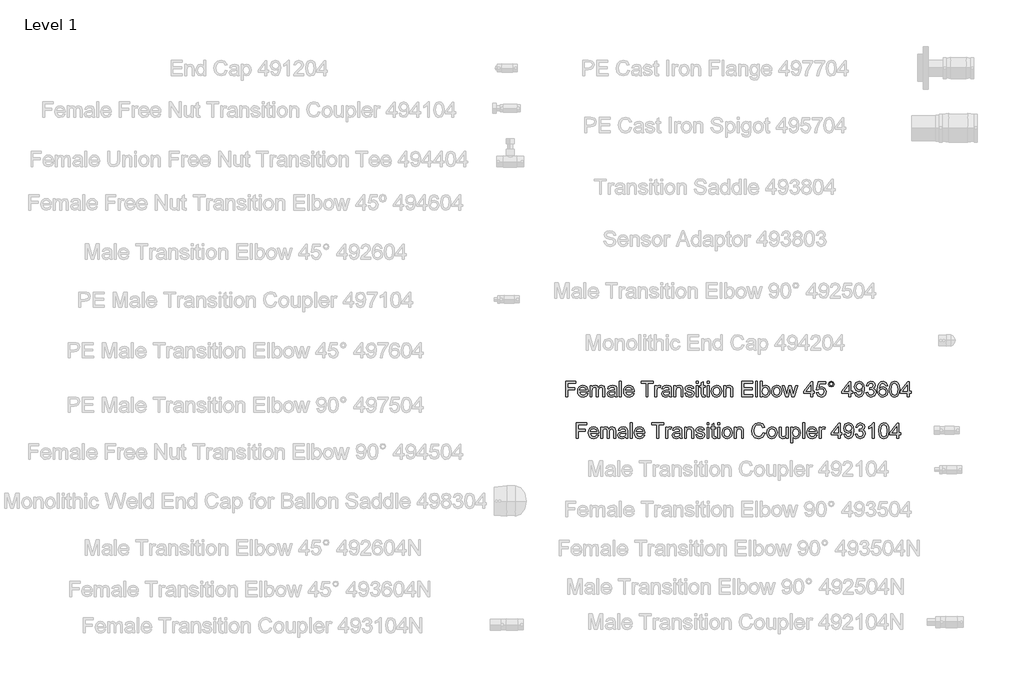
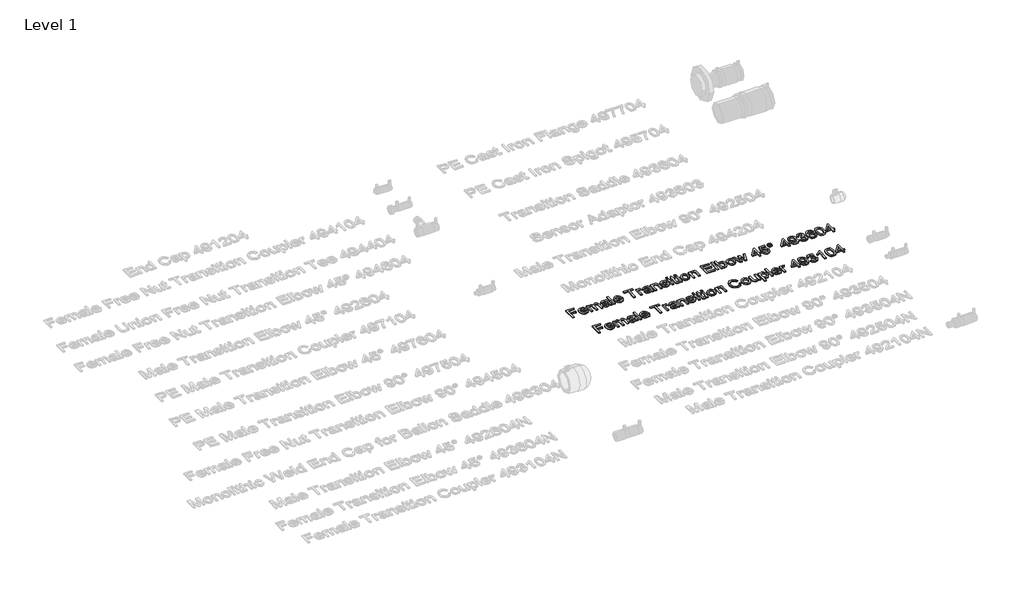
# One storey, part 24 of 38: 2 proxies.
"""IFC4 building model written with IfcOpenShell, lengths in millimetres."""

from ifc_helpers import new_model, si_unit, origin, origin_with_axes, place, context, project, spatial, polyline, outline, extrude, element, save

model = new_model("IFC4")

# Units and contexts
model_context = context("Model", 3, world=origin())
ifc_project = project(units=[si_unit("LENGTHUNIT", "METRE", prefix="MILLI")], contexts=[model_context])

# Site, building, storey
site = spatial("IfcSite", under=ifc_project)
building = spatial("IfcBuilding", under=site)
storey = spatial("IfcBuildingStorey", under=building, Name="Level 1", Elevation=0.0)

# Proxies
placement = place(None, origin())
element("IfcBuildingElementProxy", 1, Name="100 mm Arial", ObjectType="100 mm Arial", at=placement, inside=storey, context=model_context, shape_type="SweptSolid", body=[
    extrude(outline(polyline([(17547.9136045, 3844.7258229), (17547.9136045, 3903.802746), (17587.6059122, 3903.802746), (17587.6059122, 3896.4181306), (17555.2982199, 3896.4181306), (17555.2982199, 3878.879669), (17582.9905276, 3878.879669), (17582.9905276, 3871.4950536), (17555.2982199, 3871.4950536), (17555.2982199, 3844.7258229), (17547.9136045, 3844.7258229)])), origin_with_axes(), (0.0, 0.0, 1.0), 5.0),
    extrude(outline(polyline([(17627.2116814, 3857.6488998), (17634.4520661, 3856.7258229), (17627.6804314, 3847.192169), (17615.0674507, 3843.802746), (17606.4027872, 3845.2648854), (17599.7357199, 3849.6513036), (17595.484518, 3856.677145), (17594.0674507, 3866.0575536), (17595.4989411, 3875.7534671), (17599.7934122, 3883.004669), (17606.3703353, 3887.5263036), (17614.6491814, 3889.0335152), (17622.6702151, 3887.5299094), (17629.0794699, 3883.0190921), (17633.2819939, 3875.7823133), (17634.6828353, 3866.1008229), (17634.6395661, 3864.1104383), (17601.4520661, 3864.1104383), (17605.6996622, 3854.5190921), (17615.2116814, 3851.1873613), (17622.4520661, 3852.7306306), (17627.2116814, 3857.6488998)]), holes=[polyline([(17601.4520661, 3871.4950536), (17627.2982199, 3871.4950536), (17624.3414891, 3878.1873613), (17614.6203353, 3881.6488998), (17605.5265853, 3878.8868806), (17601.4520661, 3871.4950536)])]), origin_with_axes(), (0.0, 0.0, 1.0), 5.0),
    extrude(outline(polyline([(17642.0674507, 3844.7258229), (17642.0674507, 3888.1104383), (17649.4520661, 3888.1104383), (17649.4520661, 3880.9710152), (17654.5289891, 3886.8195729), (17661.7549507, 3889.0335152), (17669.1539891, 3886.7763036), (17673.2212968, 3880.4517844), (17678.9833161, 3886.8880825), (17686.2597584, 3889.0335152), (17695.9160084, 3885.4638036), (17699.2982199, 3874.4662075), (17699.2982199, 3844.7258229), (17691.9136045, 3844.7258229), (17691.9136045, 3871.2931306), (17691.2285084, 3877.458996), (17688.7477391, 3880.4950536), (17684.5289891, 3881.6488998), (17677.2669699, 3878.692169), (17674.375143, 3869.2162075), (17674.375143, 3844.7258229), (17666.9905276, 3844.7258229), (17666.9905276, 3872.115246), (17665.281393, 3879.2690921), (17659.6780276, 3881.6488998), (17654.2116814, 3880.0623613), (17650.5770661, 3875.4181306), (17649.4520661, 3866.6056306), (17649.4520661, 3844.7258229), (17642.0674507, 3844.7258229)])), origin_with_axes(), (0.0, 0.0, 1.0), 5.0),
    extrude(outline(polyline([(17738.0674507, 3850.2642844), (17730.906393, 3845.2594767), (17722.9953353, 3843.802746), (17712.2717776, 3847.3075536), (17708.5289891, 3856.2642844), (17709.9424507, 3862.1056306), (17713.656393, 3866.3460152), (17718.8270661, 3868.7690921), (17725.2164891, 3869.879669), (17738.0241814, 3872.4181306), (17738.0674507, 3874.0623613), (17736.0337968, 3879.5142844), (17727.8703353, 3881.6488998), (17720.3991814, 3880.2282267), (17716.8366814, 3875.1873613), (17709.4520661, 3876.1104383), (17712.6467776, 3883.3219767), (17719.0794699, 3887.5479383), (17728.8222584, 3889.0335152), (17737.7717776, 3887.7210152), (17742.8270661, 3884.4253421), (17745.0914891, 3879.4133229), (17745.4520661, 3872.9517844), (17745.4520661, 3863.7642844), (17745.8270661, 3850.9349575), (17747.2982199, 3844.7258229), (17739.9136045, 3844.7258229), (17738.0674507, 3850.2642844)]), holes=[polyline([(17738.0674507, 3865.0335152), (17726.1539891, 3862.7690921), (17719.8006237, 3861.5719767), (17716.9232199, 3859.6248613), (17715.9136045, 3856.7835152), (17718.1131237, 3852.7883229), (17724.5674507, 3851.1873613), (17732.0386045, 3852.9541883), (17736.8559122, 3857.2306306), (17738.0241814, 3862.942169), (17738.0674507, 3865.0335152)])]), origin_with_axes(), (0.0, 0.0, 1.0), 5.0),
    extrude(outline(polyline([(17755.6059122, 3844.7258229), (17755.6059122, 3903.802746), (17762.9905276, 3903.802746), (17762.9905276, 3844.7258229), (17755.6059122, 3844.7258229)])), origin_with_axes(), (0.0, 0.0, 1.0), 5.0),
    extrude(outline(polyline([(17804.4424507, 3857.6488998), (17811.6828353, 3856.7258229), (17804.9112007, 3847.192169), (17792.2982199, 3843.802746), (17783.6335564, 3845.2648854), (17776.9664891, 3849.6513036), (17772.7152872, 3856.677145), (17771.2982199, 3866.0575536), (17772.7297103, 3875.7534671), (17777.0241814, 3883.004669), (17783.6011045, 3887.5263036), (17791.8799507, 3889.0335152), (17799.9009843, 3887.5299094), (17806.3102391, 3883.0190921), (17810.5127632, 3875.7823133), (17811.9136045, 3866.1008229), (17811.8703353, 3864.1104383), (17778.6828353, 3864.1104383), (17782.9304314, 3854.5190921), (17792.4424507, 3851.1873613), (17799.6828353, 3852.7306306), (17804.4424507, 3857.6488998)]), holes=[polyline([(17778.6828353, 3871.4950536), (17804.5289891, 3871.4950536), (17801.5722584, 3878.1873613), (17791.8511045, 3881.6488998), (17782.7573545, 3878.8868806), (17778.6828353, 3871.4950536)])]), origin_with_axes(), (0.0, 0.0, 1.0), 5.0),
    extrude(outline(polyline([(17858.0674507, 3844.7258229), (17858.0674507, 3896.4181306), (17838.6828353, 3896.4181306), (17838.6828353, 3903.802746), (17884.8366814, 3903.802746), (17884.8366814, 3896.4181306), (17865.4520661, 3896.4181306), (17865.4520661, 3844.7258229), (17858.0674507, 3844.7258229)])), origin_with_axes(), (0.0, 0.0, 1.0), 5.0),
    extrude(outline(polyline([(17892.2212968, 3844.7258229), (17892.2212968, 3888.1104383), (17898.6828353, 3888.1104383), (17898.6828353, 3881.692169), (17903.2693737, 3887.6056306), (17907.8847584, 3889.0335152), (17915.2982199, 3886.754669), (17912.8318737, 3880.1344767), (17907.6395661, 3881.6488998), (17903.4640853, 3880.192169), (17900.8030276, 3876.1537075), (17899.6059122, 3867.5287075), (17899.6059122, 3844.7258229), (17892.2212968, 3844.7258229)])), origin_with_axes(), (0.0, 0.0, 1.0), 5.0),
    extrude(outline(polyline([(17947.6059122, 3850.2642844), (17940.4448545, 3845.2594767), (17932.5337968, 3843.802746), (17921.8102391, 3847.3075536), (17918.0674507, 3856.2642844), (17919.4809122, 3862.1056306), (17923.1948545, 3866.3460152), (17928.3655276, 3868.7690921), (17934.7549507, 3869.879669), (17947.562643, 3872.4181306), (17947.6059122, 3874.0623613), (17945.5722584, 3879.5142844), (17937.4087968, 3881.6488998), (17929.937643, 3880.2282267), (17926.375143, 3875.1873613), (17918.9905276, 3876.1104383), (17922.1852391, 3883.3219767), (17928.6179314, 3887.5479383), (17938.3607199, 3889.0335152), (17947.3102391, 3887.7210152), (17952.3655276, 3884.4253421), (17954.6299507, 3879.4133229), (17954.9905276, 3872.9517844), (17954.9905276, 3863.7642844), (17955.3655276, 3850.9349575), (17956.8366814, 3844.7258229), (17949.4520661, 3844.7258229), (17947.6059122, 3850.2642844)]), holes=[polyline([(17947.6059122, 3865.0335152), (17935.6924507, 3862.7690921), (17929.3390853, 3861.5719767), (17926.4616814, 3859.6248613), (17925.4520661, 3856.7835152), (17927.6515853, 3852.7883229), (17934.1059122, 3851.1873613), (17941.5770661, 3852.9541883), (17946.3943737, 3857.2306306), (17947.562643, 3862.942169), (17947.6059122, 3865.0335152)])]), origin_with_axes(), (0.0, 0.0, 1.0), 5.0),
    extrude(outline(polyline([(17965.1443737, 3844.7258229), (17965.1443737, 3888.1104383), (17972.5289891, 3888.1104383), (17972.5289891, 3882.052746), (17978.1756237, 3887.2883229), (17985.8847584, 3889.0335152), (17992.8583161, 3887.6272652), (17997.6179314, 3883.9349575), (17999.8318737, 3878.504669), (18000.2212968, 3871.365246), (18000.2212968, 3844.7258229), (17992.8366814, 3844.7258229), (17992.8366814, 3870.3700536), (17991.9857199, 3876.9037075), (17988.9785084, 3880.3580344), (17983.9087968, 3881.6488998), (17975.8967776, 3878.7498613), (17972.5289891, 3867.7450536), (17972.5289891, 3844.7258229), (17965.1443737, 3844.7258229)])), origin_with_axes(), (0.0, 0.0, 1.0), 5.0),
    extrude(outline(polyline([(18007.6059122, 3857.6488998), (18014.9905276, 3858.5719767), (18018.4087968, 3853.0912075), (18026.2405276, 3851.1873613), (18033.7693737, 3852.9325536), (18036.2212968, 3857.0287075), (18033.7549507, 3860.3460152), (18026.1539891, 3862.4517844), (18015.0337968, 3866.0647652), (18010.1804314, 3870.2835152), (18008.5289891, 3876.240246), (18009.8559122, 3881.7426498), (18013.4761045, 3885.9469767), (18018.1708161, 3888.1320729), (18024.5241814, 3889.0335152), (18033.5097584, 3887.583996), (18039.2212968, 3883.660919), (18041.7597584, 3877.0335152), (18034.375143, 3876.1104383), (18031.5987007, 3880.1849575), (18025.1011045, 3881.6488998), (18018.0337968, 3880.2498613), (18015.9136045, 3876.990246), (18016.7934122, 3874.8412075), (18019.5482199, 3873.2113998), (18025.9087968, 3871.6392844), (18036.7477391, 3868.1633229), (18041.781393, 3864.2258229), (18043.6059122, 3857.8075536), (18041.4640853, 3850.740246), (18035.2837968, 3845.6128421), (18026.1395661, 3843.802746), (18013.2597584, 3847.2931306), (18007.6059122, 3857.6488998)])), origin_with_axes(), (0.0, 0.0, 1.0), 5.0),
    extrude(outline(polyline([(18051.9136045, 3844.7258229), (18051.9136045, 3888.1104383), (18059.2982199, 3888.1104383), (18059.2982199, 3844.7258229), (18051.9136045, 3844.7258229)])), origin_with_axes(), (0.0, 0.0, 1.0), 5.0),
    extrude(outline(polyline([(18051.9136045, 3896.4181306), (18051.9136045, 3903.802746), (18059.2982199, 3903.802746), (18059.2982199, 3896.4181306), (18051.9136045, 3896.4181306)])), origin_with_axes(), (0.0, 0.0, 1.0), 5.0),
    extrude(outline(polyline([(18086.0674507, 3850.8844767), (18086.9905276, 3844.5094767), (18081.4664891, 3843.802746), (18075.2789891, 3845.0287075), (18072.1924507, 3848.2450536), (18071.2982199, 3856.6248613), (18071.2982199, 3880.7258229), (18065.7597584, 3880.7258229), (18065.7597584, 3888.1104383), (18071.2982199, 3888.1104383), (18071.2982199, 3898.6537075), (18078.6828353, 3902.9950536), (18078.6828353, 3888.1104383), (18086.0674507, 3888.1104383), (18086.0674507, 3880.7258229), (18078.6828353, 3880.7258229), (18078.6828353, 3856.8412075), (18079.0722584, 3853.0335152), (18080.3342776, 3851.6849575), (18082.8511045, 3851.1873613), (18086.0674507, 3850.8844767)])), origin_with_axes(), (0.0, 0.0, 1.0), 5.0),
    extrude(outline(polyline([(18093.4520661, 3844.7258229), (18093.4520661, 3888.1104383), (18100.8366814, 3888.1104383), (18100.8366814, 3844.7258229), (18093.4520661, 3844.7258229)])), origin_with_axes(), (0.0, 0.0, 1.0), 5.0),
    extrude(outline(polyline([(18093.4520661, 3896.4181306), (18093.4520661, 3903.802746), (18100.8366814, 3903.802746), (18100.8366814, 3896.4181306), (18093.4520661, 3896.4181306)])), origin_with_axes(), (0.0, 0.0, 1.0), 5.0),
    extrude(outline(polyline([(18110.0674507, 3866.4181306), (18111.6648064, 3876.8784671), (18116.4568737, 3884.2306306), (18129.4664891, 3889.0335152), (18137.2243016, 3887.5713758), (18143.4208161, 3883.1849575), (18147.4827151, 3876.2204142), (18148.8366814, 3867.0238998), (18146.4424507, 3853.8844767), (18139.468893, 3846.4493806), (18129.4664891, 3843.802746), (18121.6149266, 3845.2594767), (18115.4256237, 3849.629669), (18111.4069939, 3856.740246), (18110.0674507, 3866.4181306)]), holes=[polyline([(18117.4520661, 3866.4325536), (18120.8703353, 3854.9878421), (18129.4664891, 3851.1873613), (18138.0337968, 3855.0094767), (18141.4520661, 3866.6633229), (18138.0121622, 3877.848419), (18129.4664891, 3881.6488998), (18120.8703353, 3877.8628421), (18117.4520661, 3866.4325536)])]), origin_with_axes(), (0.0, 0.0, 1.0), 5.0),
    extrude(outline(polyline([(18157.1443737, 3844.7258229), (18157.1443737, 3888.1104383), (18164.5289891, 3888.1104383), (18164.5289891, 3882.052746), (18170.1756237, 3887.2883229), (18177.8847584, 3889.0335152), (18184.8583161, 3887.6272652), (18189.6179314, 3883.9349575), (18191.8318737, 3878.504669), (18192.2212968, 3871.365246), (18192.2212968, 3844.7258229), (18184.8366814, 3844.7258229), (18184.8366814, 3870.3700536), (18183.9857199, 3876.9037075), (18180.9785084, 3880.3580344), (18175.9087968, 3881.6488998), (18167.8967776, 3878.7498613), (18164.5289891, 3867.7450536), (18164.5289891, 3844.7258229), (18157.1443737, 3844.7258229)])), origin_with_axes(), (0.0, 0.0, 1.0), 5.0),
    extrude(outline(polyline([(18226.375143, 3844.7258229), (18226.375143, 3903.802746), (18268.8366814, 3903.802746), (18268.8366814, 3896.4181306), (18233.7597584, 3896.4181306), (18233.7597584, 3878.879669), (18266.9905276, 3878.879669), (18266.9905276, 3871.4950536), (18233.7597584, 3871.4950536), (18233.7597584, 3852.1104383), (18269.7597584, 3852.1104383), (18269.7597584, 3844.7258229), (18226.375143, 3844.7258229)])), origin_with_axes(), (0.0, 0.0, 1.0), 5.0),
    extrude(outline(polyline([(18279.9136045, 3844.7258229), (18279.9136045, 3903.802746), (18287.2982199, 3903.802746), (18287.2982199, 3844.7258229), (18279.9136045, 3844.7258229)])), origin_with_axes(), (0.0, 0.0, 1.0), 5.0),
    extrude(outline(polyline([(18305.7597584, 3844.7258229), (18298.375143, 3844.7258229), (18298.375143, 3903.802746), (18305.7597584, 3903.802746), (18305.7597584, 3881.8940921), (18310.9304314, 3887.2486594), (18317.3559122, 3889.0335152), (18324.7549507, 3887.4253421), (18330.4953353, 3882.9037075), (18334.0217776, 3875.8724575), (18335.2982199, 3867.067169), (18333.9767055, 3857.208996), (18330.0121622, 3849.8748613), (18324.1942536, 3845.3207748), (18317.312643, 3843.802746), (18310.7465372, 3845.7606786), (18305.7597584, 3851.6344767), (18305.7597584, 3844.7258229)]), holes=[polyline([(18305.7597584, 3866.7210152), (18307.7789891, 3856.3940921), (18316.6780276, 3851.1873613), (18324.5818737, 3855.0238998), (18327.9136045, 3866.4613998), (18324.718893, 3877.942169), (18316.9953353, 3881.6488998), (18309.0914891, 3877.8123613), (18305.7597584, 3866.7210152)])]), origin_with_axes(), (0.0, 0.0, 1.0), 5.0),
    extrude(outline(polyline([(18341.7597584, 3866.4181306), (18343.3571141, 3876.8784671), (18348.1491814, 3884.2306306), (18361.1587968, 3889.0335152), (18368.9166093, 3887.5713758), (18375.1131237, 3883.1849575), (18379.1750228, 3876.2204142), (18380.5289891, 3867.0238998), (18378.1347584, 3853.8844767), (18371.1612007, 3846.4493806), (18361.1587968, 3843.802746), (18353.3072343, 3845.2594767), (18347.1179314, 3849.629669), (18343.0993016, 3856.740246), (18341.7597584, 3866.4181306)]), holes=[polyline([(18349.1443737, 3866.4325536), (18352.562643, 3854.9878421), (18361.1587968, 3851.1873613), (18369.7261045, 3855.0094767), (18373.1443737, 3866.6633229), (18369.7044699, 3877.848419), (18361.1587968, 3881.6488998), (18352.562643, 3877.8628421), (18349.1443737, 3866.4325536)])]), origin_with_axes(), (0.0, 0.0, 1.0), 5.0),
    extrude(outline(polyline([(18396.0337968, 3844.7258229), (18382.8366814, 3888.1104383), (18390.5097584, 3888.1104383), (18397.9953353, 3862.7979383), (18400.2309122, 3853.754669), (18402.062643, 3862.4662075), (18408.0193737, 3888.1104383), (18416.8174507, 3888.1104383), (18422.7453353, 3862.5383229), (18424.375143, 3854.6488998), (18426.7116814, 3862.9710152), (18434.2116814, 3888.1104383), (18441.9136045, 3888.1104383), (18428.6155276, 3844.7258229), (18419.687643, 3844.7258229), (18414.0193737, 3870.1681306), (18412.375143, 3878.1008229), (18405.062643, 3844.7258229), (18396.0337968, 3844.7258229)])), origin_with_axes(), (0.0, 0.0, 1.0), 5.0),
    extrude(outline(polyline([(18492.2212968, 3844.7258229), (18492.2212968, 3858.5719767), (18465.4520661, 3858.5719767), (18465.4520661, 3865.9565921), (18494.0674507, 3902.879669), (18499.6059122, 3902.879669), (18499.6059122, 3865.9565921), (18506.9905276, 3865.9565921), (18506.9905276, 3858.5719767), (18499.6059122, 3858.5719767), (18499.6059122, 3844.7258229), (18492.2212968, 3844.7258229)]), holes=[polyline([(18492.2212968, 3865.9565921), (18492.2212968, 3888.7738998), (18474.5386045, 3865.9565921), (18492.2212968, 3865.9565921)])]), origin_with_axes(), (0.0, 0.0, 1.0), 5.0),
    extrude(outline(polyline([(18513.4520661, 3860.4181306), (18520.8366814, 3861.3412075), (18524.5578353, 3853.7330344), (18532.2741814, 3851.1873613), (18541.5337968, 3854.7282267), (18544.8366814, 3864.1248613), (18541.7429314, 3872.8940921), (18532.3895661, 3876.1104383), (18525.906393, 3874.8267844), (18521.7597584, 3871.4950536), (18514.375143, 3872.4181306), (18520.8366814, 3902.879669), (18549.4520661, 3902.879669), (18549.4520661, 3895.4950536), (18526.8078353, 3895.4950536), (18523.6491814, 3879.2258229), (18534.4520661, 3883.4950536), (18547.0794699, 3878.2017844), (18552.2212968, 3864.5863998), (18547.5914891, 3850.8844767), (18540.9424507, 3845.5731786), (18532.2453353, 3843.802746), (18519.2140853, 3848.3532267), (18513.4520661, 3860.4181306)])), origin_with_axes(), (0.0, 0.0, 1.0), 5.0),
    extrude(outline(polyline([(18560.5289891, 3893.6633229), (18563.781393, 3901.4950536), (18571.5914891, 3904.7258229), (18579.4520661, 3901.4950536), (18582.6828353, 3893.6633229), (18579.4304314, 3885.8243806), (18571.5914891, 3882.5719767), (18563.781393, 3885.802746), (18560.5289891, 3893.6633229)]), holes=[polyline([(18565.1443737, 3893.6488998), (18567.0410084, 3889.0767844), (18571.6203353, 3887.1873613), (18576.1708161, 3889.0767844), (18578.0674507, 3893.6488998), (18576.1708161, 3898.2210152), (18571.6203353, 3900.1104383), (18567.0410084, 3898.2210152), (18565.1443737, 3893.6488998)])]), origin_with_axes(), (0.0, 0.0, 1.0), 5.0),
    extrude(outline(polyline([(18638.9905276, 3844.7258229), (18638.9905276, 3858.5719767), (18612.2212968, 3858.5719767), (18612.2212968, 3865.9565921), (18640.8366814, 3902.879669), (18646.375143, 3902.879669), (18646.375143, 3865.9565921), (18653.7597584, 3865.9565921), (18653.7597584, 3858.5719767), (18646.375143, 3858.5719767), (18646.375143, 3844.7258229), (18638.9905276, 3844.7258229)]), holes=[polyline([(18638.9905276, 3865.9565921), (18638.9905276, 3888.7738998), (18621.3078353, 3865.9565921), (18638.9905276, 3865.9565921)])]), origin_with_axes(), (0.0, 0.0, 1.0), 5.0),
    extrude(outline(polyline([(18661.1443737, 3859.4950536), (18668.5289891, 3860.4181306), (18671.8462968, 3853.3724575), (18678.1347584, 3851.1873613), (18684.1131237, 3852.5936113), (18688.1660084, 3856.3508229), (18690.5818737, 3862.7690921), (18691.6491814, 3871.3363998), (18685.6996622, 3867.1825536), (18677.6011045, 3865.0335152), (18665.2621622, 3870.2835152), (18660.2212968, 3884.115246), (18665.5073545, 3898.3940921), (18678.7549507, 3903.802746), (18689.2765853, 3900.7162075), (18696.5169699, 3891.9181306), (18698.9905276, 3875.3892844), (18696.5241814, 3857.4541883), (18689.1900468, 3847.2931306), (18677.7886045, 3843.802746), (18666.437643, 3847.9205344), (18661.1443737, 3859.4950536)]), holes=[polyline([(18691.6059122, 3884.2883229), (18688.4184122, 3893.1440921), (18679.9520661, 3896.4181306), (18671.0674507, 3892.8916883), (18667.6059122, 3883.754669), (18670.8799507, 3875.5695729), (18679.750143, 3872.4181306), (18688.2669699, 3875.5695729), (18691.6059122, 3884.2883229)])]), origin_with_axes(), (0.0, 0.0, 1.0), 5.0),
    extrude(outline(polyline([(18705.4520661, 3860.4181306), (18712.8366814, 3861.3412075), (18716.9112007, 3853.567169), (18724.5337968, 3851.1873613), (18733.5049507, 3854.4613998), (18736.8366814, 3862.567169), (18733.5337968, 3870.2041883), (18725.1395661, 3873.2258229), (18719.9616814, 3872.4181306), (18720.7837968, 3879.802746), (18730.3462968, 3881.8363998), (18734.0674507, 3888.3556306), (18731.3703353, 3894.1320729), (18724.4184122, 3896.4181306), (18717.3799507, 3894.1104383), (18713.7597584, 3887.1873613), (18706.375143, 3888.1104383), (18712.4184122, 3899.692169), (18724.1587968, 3903.802746), (18733.0650468, 3901.7763036), (18739.2958161, 3896.2378421), (18741.4520661, 3888.7883229), (18739.4039891, 3881.9806306), (18733.3462968, 3877.0912075), (18741.3943737, 3872.0431306), (18744.2212968, 3862.4373613), (18738.5674507, 3849.2258229), (18724.2741814, 3843.802746), (18711.3222584, 3848.4325536), (18705.4520661, 3860.4181306)])), origin_with_axes(), (0.0, 0.0, 1.0), 5.0),
    extrude(outline(polyline([(18788.5289891, 3888.1104383), (18781.1443737, 3887.1873613), (18778.3462968, 3893.3460152), (18770.9472584, 3896.4181306), (18764.2837968, 3894.629669), (18759.2429314, 3887.9157267), (18757.1443737, 3874.754669), (18763.656393, 3880.646496), (18771.7261045, 3882.5719767), (18784.2741814, 3877.3075536), (18789.4520661, 3863.7065921), (18787.0145661, 3853.5166883), (18780.3078353, 3846.3051498), (18770.6299507, 3843.802746), (18762.2519459, 3845.4613998), (18755.5794699, 3850.4373613), (18751.2146862, 3859.2210152), (18749.7597584, 3872.302746), (18751.375143, 3887.0106786), (18756.2212968, 3897.067169), (18762.8378834, 3902.1188517), (18771.4087968, 3903.802746), (18783.0770661, 3899.6344767), (18788.5289891, 3888.1104383)]), holes=[polyline([(18757.1443737, 3863.8219767), (18758.8535084, 3857.4253421), (18763.3967776, 3852.7811113), (18770.0530276, 3851.1873613), (18778.7573545, 3854.490246), (18782.0674507, 3863.4613998), (18778.8006237, 3872.0503421), (18769.750143, 3875.1873613), (18760.8150468, 3872.0503421), (18757.1443737, 3863.8219767)])]), origin_with_axes(), (0.0, 0.0, 1.0), 5.0),
    extrude(outline(polyline([(18795.9136045, 3873.7883229), (18798.0842776, 3890.785919), (18804.531393, 3900.5863998), (18815.2982199, 3903.802746), (18823.9232199, 3901.8988998), (18829.8799507, 3896.410919), (18833.3414891, 3887.6705344), (18834.6828353, 3873.7883229), (18832.5337968, 3856.8628421), (18826.1083161, 3847.0407267), (18815.2982199, 3843.802746), (18807.625143, 3845.208996), (18801.7982199, 3849.427746), (18797.3847584, 3859.4193325), (18795.9136045, 3873.7883229)]), holes=[polyline([(18803.2982199, 3873.802746), (18806.7597584, 3855.4638036), (18815.2982199, 3851.1873613), (18823.8366814, 3855.4782267), (18827.2982199, 3873.802746), (18823.9520661, 3891.9325536), (18815.2116814, 3896.4181306), (18806.875143, 3892.4662075), (18803.2982199, 3873.802746)])]), origin_with_axes(), (0.0, 0.0, 1.0), 5.0),
    extrude(outline(polyline([(18865.1443737, 3844.7258229), (18865.1443737, 3858.5719767), (18838.375143, 3858.5719767), (18838.375143, 3865.9565921), (18866.9905276, 3902.879669), (18872.5289891, 3902.879669), (18872.5289891, 3865.9565921), (18879.9136045, 3865.9565921), (18879.9136045, 3858.5719767), (18872.5289891, 3858.5719767), (18872.5289891, 3844.7258229), (18865.1443737, 3844.7258229)]), holes=[polyline([(18865.1443737, 3865.9565921), (18865.1443737, 3888.7738998), (18847.4616814, 3865.9565921), (18865.1443737, 3865.9565921)])]), origin_with_axes(), (0.0, 0.0, 1.0), 5.0),
])
element("IfcBuildingElementProxy", 2, Name="100 mm Arial", ObjectType="100 mm Arial", at=placement, inside=storey, context=model_context, shape_type="SweptSolid", body=[
    extrude(outline(polyline([(17588.9905276, 3684.7258229), (17588.9905276, 3743.802746), (17628.6828353, 3743.802746), (17628.6828353, 3736.4181306), (17596.375143, 3736.4181306), (17596.375143, 3718.879669), (17624.0674507, 3718.879669), (17624.0674507, 3711.4950536), (17596.375143, 3711.4950536), (17596.375143, 3684.7258229), (17588.9905276, 3684.7258229)])), origin_with_axes(), (0.0, 0.0, 1.0), 5.0),
    extrude(outline(polyline([(17668.2886045, 3697.6488998), (17675.5289891, 3696.7258229), (17668.7573545, 3687.192169), (17656.1443737, 3683.802746), (17647.4797103, 3685.2648854), (17640.812643, 3689.6513036), (17636.5614411, 3696.677145), (17635.1443737, 3706.0575536), (17636.5758641, 3715.7534671), (17640.8703353, 3723.004669), (17647.4472584, 3727.5263036), (17655.7261045, 3729.0335152), (17663.7471382, 3727.5299094), (17670.156393, 3723.0190921), (17674.358917, 3715.7823133), (17675.7597584, 3706.1008229), (17675.7164891, 3704.1104383), (17642.5289891, 3704.1104383), (17646.7765853, 3694.5190921), (17656.2886045, 3691.1873613), (17663.5289891, 3692.7306306), (17668.2886045, 3697.6488998)]), holes=[polyline([(17642.5289891, 3711.4950536), (17668.375143, 3711.4950536), (17665.4184122, 3718.1873613), (17655.6972584, 3721.6488998), (17646.6035084, 3718.8868806), (17642.5289891, 3711.4950536)])]), origin_with_axes(), (0.0, 0.0, 1.0), 5.0),
    extrude(outline(polyline([(17683.1443737, 3684.7258229), (17683.1443737, 3728.1104383), (17690.5289891, 3728.1104383), (17690.5289891, 3720.9710152), (17695.6059122, 3726.8195729), (17702.8318737, 3729.0335152), (17710.2309122, 3726.7763036), (17714.2982199, 3720.4517844), (17720.0602391, 3726.8880825), (17727.3366814, 3729.0335152), (17736.9929314, 3725.4638036), (17740.375143, 3714.4662075), (17740.375143, 3684.7258229), (17732.9905276, 3684.7258229), (17732.9905276, 3711.2931306), (17732.3054314, 3717.458996), (17729.8246622, 3720.4950536), (17725.6059122, 3721.6488998), (17718.343893, 3718.692169), (17715.4520661, 3709.2162075), (17715.4520661, 3684.7258229), (17708.0674507, 3684.7258229), (17708.0674507, 3712.115246), (17706.3583161, 3719.2690921), (17700.7549507, 3721.6488998), (17695.2886045, 3720.0623613), (17691.6539891, 3715.4181306), (17690.5289891, 3706.6056306), (17690.5289891, 3684.7258229), (17683.1443737, 3684.7258229)])), origin_with_axes(), (0.0, 0.0, 1.0), 5.0),
    extrude(outline(polyline([(17779.1443737, 3690.2642844), (17771.9833161, 3685.2594767), (17764.0722584, 3683.802746), (17753.3487007, 3687.3075536), (17749.6059122, 3696.2642844), (17751.0193737, 3702.1056306), (17754.7333161, 3706.3460152), (17759.9039891, 3708.7690921), (17766.2934122, 3709.879669), (17779.1011045, 3712.4181306), (17779.1443737, 3714.0623613), (17777.1107199, 3719.5142844), (17768.9472584, 3721.6488998), (17761.4761045, 3720.2282267), (17757.9136045, 3715.1873613), (17750.5289891, 3716.1104383), (17753.7237007, 3723.3219767), (17760.156393, 3727.5479383), (17769.8991814, 3729.0335152), (17778.8487007, 3727.7210152), (17783.9039891, 3724.4253421), (17786.1684122, 3719.4133229), (17786.5289891, 3712.9517844), (17786.5289891, 3703.7642844), (17786.9039891, 3690.9349575), (17788.375143, 3684.7258229), (17780.9905276, 3684.7258229), (17779.1443737, 3690.2642844)]), holes=[polyline([(17779.1443737, 3705.0335152), (17767.2309122, 3702.7690921), (17760.8775468, 3701.5719767), (17758.000143, 3699.6248613), (17756.9905276, 3696.7835152), (17759.1900468, 3692.7883229), (17765.6443737, 3691.1873613), (17773.1155276, 3692.9541883), (17777.9328353, 3697.2306306), (17779.1011045, 3702.942169), (17779.1443737, 3705.0335152)])]), origin_with_axes(), (0.0, 0.0, 1.0), 5.0),
    extrude(outline(polyline([(17796.6828353, 3684.7258229), (17796.6828353, 3743.802746), (17804.0674507, 3743.802746), (17804.0674507, 3684.7258229), (17796.6828353, 3684.7258229)])), origin_with_axes(), (0.0, 0.0, 1.0), 5.0),
    extrude(outline(polyline([(17845.5193737, 3697.6488998), (17852.7597584, 3696.7258229), (17845.9881237, 3687.192169), (17833.375143, 3683.802746), (17824.7104795, 3685.2648854), (17818.0434122, 3689.6513036), (17813.7922103, 3696.677145), (17812.375143, 3706.0575536), (17813.8066334, 3715.7534671), (17818.1011045, 3723.004669), (17824.6780276, 3727.5263036), (17832.9568737, 3729.0335152), (17840.9779074, 3727.5299094), (17847.3871622, 3723.0190921), (17851.5896862, 3715.7823133), (17852.9905276, 3706.1008229), (17852.9472584, 3704.1104383), (17819.7597584, 3704.1104383), (17824.0073545, 3694.5190921), (17833.5193737, 3691.1873613), (17840.7597584, 3692.7306306), (17845.5193737, 3697.6488998)]), holes=[polyline([(17819.7597584, 3711.4950536), (17845.6059122, 3711.4950536), (17842.6491814, 3718.1873613), (17832.9280276, 3721.6488998), (17823.8342776, 3718.8868806), (17819.7597584, 3711.4950536)])]), origin_with_axes(), (0.0, 0.0, 1.0), 5.0),
    extrude(outline(polyline([(17899.1443737, 3684.7258229), (17899.1443737, 3736.4181306), (17879.7597584, 3736.4181306), (17879.7597584, 3743.802746), (17925.9136045, 3743.802746), (17925.9136045, 3736.4181306), (17906.5289891, 3736.4181306), (17906.5289891, 3684.7258229), (17899.1443737, 3684.7258229)])), origin_with_axes(), (0.0, 0.0, 1.0), 5.0),
    extrude(outline(polyline([(17933.2982199, 3684.7258229), (17933.2982199, 3728.1104383), (17939.7597584, 3728.1104383), (17939.7597584, 3721.692169), (17944.3462968, 3727.6056306), (17948.9616814, 3729.0335152), (17956.375143, 3726.754669), (17953.9087968, 3720.1344767), (17948.7164891, 3721.6488998), (17944.5410084, 3720.192169), (17941.8799507, 3716.1537075), (17940.6828353, 3707.5287075), (17940.6828353, 3684.7258229), (17933.2982199, 3684.7258229)])), origin_with_axes(), (0.0, 0.0, 1.0), 5.0),
    extrude(outline(polyline([(17988.6828353, 3690.2642844), (17981.5217776, 3685.2594767), (17973.6107199, 3683.802746), (17962.8871622, 3687.3075536), (17959.1443737, 3696.2642844), (17960.5578353, 3702.1056306), (17964.2717776, 3706.3460152), (17969.4424507, 3708.7690921), (17975.8318737, 3709.879669), (17988.6395661, 3712.4181306), (17988.6828353, 3714.0623613), (17986.6491814, 3719.5142844), (17978.4857199, 3721.6488998), (17971.0145661, 3720.2282267), (17967.4520661, 3715.1873613), (17960.0674507, 3716.1104383), (17963.2621622, 3723.3219767), (17969.6948545, 3727.5479383), (17979.437643, 3729.0335152), (17988.3871622, 3727.7210152), (17993.4424507, 3724.4253421), (17995.7068737, 3719.4133229), (17996.0674507, 3712.9517844), (17996.0674507, 3703.7642844), (17996.4424507, 3690.9349575), (17997.9136045, 3684.7258229), (17990.5289891, 3684.7258229), (17988.6828353, 3690.2642844)]), holes=[polyline([(17988.6828353, 3705.0335152), (17976.7693737, 3702.7690921), (17970.4160084, 3701.5719767), (17967.5386045, 3699.6248613), (17966.5289891, 3696.7835152), (17968.7285084, 3692.7883229), (17975.1828353, 3691.1873613), (17982.6539891, 3692.9541883), (17987.4712968, 3697.2306306), (17988.6395661, 3702.942169), (17988.6828353, 3705.0335152)])]), origin_with_axes(), (0.0, 0.0, 1.0), 5.0),
    extrude(outline(polyline([(18006.2212968, 3684.7258229), (18006.2212968, 3728.1104383), (18013.6059122, 3728.1104383), (18013.6059122, 3722.052746), (18019.2525468, 3727.2883229), (18026.9616814, 3729.0335152), (18033.9352391, 3727.6272652), (18038.6948545, 3723.9349575), (18040.9087968, 3718.504669), (18041.2982199, 3711.365246), (18041.2982199, 3684.7258229), (18033.9136045, 3684.7258229), (18033.9136045, 3710.3700536), (18033.062643, 3716.9037075), (18030.0554314, 3720.3580344), (18024.9857199, 3721.6488998), (18016.9737007, 3718.7498613), (18013.6059122, 3707.7450536), (18013.6059122, 3684.7258229), (18006.2212968, 3684.7258229)])), origin_with_axes(), (0.0, 0.0, 1.0), 5.0),
    extrude(outline(polyline([(18048.6828353, 3697.6488998), (18056.0674507, 3698.5719767), (18059.4857199, 3693.0912075), (18067.3174507, 3691.1873613), (18074.8462968, 3692.9325536), (18077.2982199, 3697.0287075), (18074.8318737, 3700.3460152), (18067.2309122, 3702.4517844), (18056.1107199, 3706.0647652), (18051.2573545, 3710.2835152), (18049.6059122, 3716.240246), (18050.9328353, 3721.7426498), (18054.5530276, 3725.9469767), (18059.2477391, 3728.1320729), (18065.6011045, 3729.0335152), (18074.5866814, 3727.583996), (18080.2982199, 3723.660919), (18082.8366814, 3717.0335152), (18075.4520661, 3716.1104383), (18072.6756237, 3720.1849575), (18066.1780276, 3721.6488998), (18059.1107199, 3720.2498613), (18056.9905276, 3716.990246), (18057.8703353, 3714.8412075), (18060.625143, 3713.2113998), (18066.9857199, 3711.6392844), (18077.8246622, 3708.1633229), (18082.8583161, 3704.2258229), (18084.6828353, 3697.8075536), (18082.5410084, 3690.740246), (18076.3607199, 3685.6128421), (18067.2164891, 3683.802746), (18054.3366814, 3687.2931306), (18048.6828353, 3697.6488998)])), origin_with_axes(), (0.0, 0.0, 1.0), 5.0),
    extrude(outline(polyline([(18092.9905276, 3684.7258229), (18092.9905276, 3728.1104383), (18100.375143, 3728.1104383), (18100.375143, 3684.7258229), (18092.9905276, 3684.7258229)])), origin_with_axes(), (0.0, 0.0, 1.0), 5.0),
    extrude(outline(polyline([(18092.9905276, 3736.4181306), (18092.9905276, 3743.802746), (18100.375143, 3743.802746), (18100.375143, 3736.4181306), (18092.9905276, 3736.4181306)])), origin_with_axes(), (0.0, 0.0, 1.0), 5.0),
    extrude(outline(polyline([(18127.1443737, 3690.8844767), (18128.0674507, 3684.5094767), (18122.5434122, 3683.802746), (18116.3559122, 3685.0287075), (18113.2693737, 3688.2450536), (18112.375143, 3696.6248613), (18112.375143, 3720.7258229), (18106.8366814, 3720.7258229), (18106.8366814, 3728.1104383), (18112.375143, 3728.1104383), (18112.375143, 3738.6537075), (18119.7597584, 3742.9950536), (18119.7597584, 3728.1104383), (18127.1443737, 3728.1104383), (18127.1443737, 3720.7258229), (18119.7597584, 3720.7258229), (18119.7597584, 3696.8412075), (18120.1491814, 3693.0335152), (18121.4112007, 3691.6849575), (18123.9280276, 3691.1873613), (18127.1443737, 3690.8844767)])), origin_with_axes(), (0.0, 0.0, 1.0), 5.0),
    extrude(outline(polyline([(18134.5289891, 3684.7258229), (18134.5289891, 3728.1104383), (18141.9136045, 3728.1104383), (18141.9136045, 3684.7258229), (18134.5289891, 3684.7258229)])), origin_with_axes(), (0.0, 0.0, 1.0), 5.0),
    extrude(outline(polyline([(18134.5289891, 3736.4181306), (18134.5289891, 3743.802746), (18141.9136045, 3743.802746), (18141.9136045, 3736.4181306), (18134.5289891, 3736.4181306)])), origin_with_axes(), (0.0, 0.0, 1.0), 5.0),
    extrude(outline(polyline([(18151.1443737, 3706.4181306), (18152.7417295, 3716.8784671), (18157.5337968, 3724.2306306), (18170.5434122, 3729.0335152), (18178.3012247, 3727.5713758), (18184.4977391, 3723.1849575), (18188.5596382, 3716.2204142), (18189.9136045, 3707.0238998), (18187.5193737, 3693.8844767), (18180.5458161, 3686.4493806), (18170.5434122, 3683.802746), (18162.6918497, 3685.2594767), (18156.5025468, 3689.629669), (18152.483917, 3696.740246), (18151.1443737, 3706.4181306)]), holes=[polyline([(18158.5289891, 3706.4325536), (18161.9472584, 3694.9878421), (18170.5434122, 3691.1873613), (18179.1107199, 3695.0094767), (18182.5289891, 3706.6633229), (18179.0890853, 3717.848419), (18170.5434122, 3721.6488998), (18161.9472584, 3717.8628421), (18158.5289891, 3706.4325536)])]), origin_with_axes(), (0.0, 0.0, 1.0), 5.0),
    extrude(outline(polyline([(18198.2212968, 3684.7258229), (18198.2212968, 3728.1104383), (18205.6059122, 3728.1104383), (18205.6059122, 3722.052746), (18211.2525468, 3727.2883229), (18218.9616814, 3729.0335152), (18225.9352391, 3727.6272652), (18230.6948545, 3723.9349575), (18232.9087968, 3718.504669), (18233.2982199, 3711.365246), (18233.2982199, 3684.7258229), (18225.9136045, 3684.7258229), (18225.9136045, 3710.3700536), (18225.062643, 3716.9037075), (18222.0554314, 3720.3580344), (18216.9857199, 3721.6488998), (18208.9737007, 3718.7498613), (18205.6059122, 3707.7450536), (18205.6059122, 3684.7258229), (18198.2212968, 3684.7258229)])), origin_with_axes(), (0.0, 0.0, 1.0), 5.0),
    extrude(outline(polyline([(18308.9905276, 3705.7258229), (18316.375143, 3703.8219767), (18307.6203353, 3688.9301498), (18292.1587968, 3683.802746), (18276.7910084, 3687.6825536), (18267.7765853, 3698.9181306), (18264.6828353, 3714.7113998), (18268.1804314, 3730.7642844), (18278.125143, 3741.1705344), (18292.3174507, 3744.7258229), (18307.1083161, 3740.1248613), (18315.4520661, 3727.1729383), (18308.0674507, 3725.4133229), (18302.0097584, 3734.4926498), (18292.0289891, 3737.3412075), (18280.4761045, 3734.1825536), (18273.9496622, 3725.7017844), (18272.0674507, 3714.7258229), (18274.2958161, 3702.004669), (18281.2333161, 3693.8772652), (18291.4232199, 3691.1873613), (18302.7237007, 3694.8508229), (18308.9905276, 3705.7258229)])), origin_with_axes(), (0.0, 0.0, 1.0), 5.0),
    extrude(outline(polyline([(18323.7597584, 3706.4181306), (18325.3571141, 3716.8784671), (18330.1491814, 3724.2306306), (18343.1587968, 3729.0335152), (18350.9166093, 3727.5713758), (18357.1131237, 3723.1849575), (18361.1750228, 3716.2204142), (18362.5289891, 3707.0238998), (18360.1347584, 3693.8844767), (18353.1612007, 3686.4493806), (18343.1587968, 3683.802746), (18335.3072343, 3685.2594767), (18329.1179314, 3689.629669), (18325.0993016, 3696.740246), (18323.7597584, 3706.4181306)]), holes=[polyline([(18331.1443737, 3706.4325536), (18334.562643, 3694.9878421), (18343.1587968, 3691.1873613), (18351.7261045, 3695.0094767), (18355.1443737, 3706.6633229), (18351.7044699, 3717.848419), (18343.1587968, 3721.6488998), (18334.562643, 3717.8628421), (18331.1443737, 3706.4325536)])]), origin_with_axes(), (0.0, 0.0, 1.0), 5.0),
    extrude(outline(polyline([(18398.5289891, 3684.7258229), (18398.5289891, 3692.1825536), (18392.7453353, 3685.8976979), (18385.2020661, 3683.802746), (18378.2573545, 3685.2738998), (18373.468893, 3688.9662075), (18371.2693737, 3694.4037075), (18370.8366814, 3701.2690921), (18370.8366814, 3728.1104383), (18378.2212968, 3728.1104383), (18378.2212968, 3704.7450536), (18378.6684122, 3697.2162075), (18381.5890853, 3692.7955344), (18387.0914891, 3691.1873613), (18393.2573545, 3692.8315921), (18397.3318737, 3697.3099575), (18398.5289891, 3705.5383229), (18398.5289891, 3728.1104383), (18405.9136045, 3728.1104383), (18405.9136045, 3684.7258229), (18398.5289891, 3684.7258229)])), origin_with_axes(), (0.0, 0.0, 1.0), 5.0),
    extrude(outline(polyline([(18416.0674507, 3668.1104383), (18416.0674507, 3728.1104383), (18423.4520661, 3728.1104383), (18423.4520661, 3720.8700536), (18428.5578353, 3726.9926498), (18435.4520661, 3729.0335152), (18444.812643, 3726.177746), (18450.9280276, 3718.129669), (18452.9905276, 3706.7498613), (18450.6612007, 3694.785919), (18443.8967776, 3686.6368806), (18434.5578353, 3683.802746), (18428.1323545, 3685.6993806), (18423.4520661, 3690.4950536), (18423.4520661, 3668.1104383), (18416.0674507, 3668.1104383)]), holes=[polyline([(18423.4520661, 3706.0719767), (18426.6467776, 3694.8219767), (18434.3991814, 3691.1873613), (18442.3102391, 3694.9517844), (18445.6059122, 3706.6200536), (18442.3895661, 3717.8988998), (18434.7020661, 3721.6488998), (18426.8631237, 3717.660919), (18423.4520661, 3706.0719767)])]), origin_with_axes(), (0.0, 0.0, 1.0), 5.0),
    extrude(outline(polyline([(18461.2982199, 3684.7258229), (18461.2982199, 3743.802746), (18468.6828353, 3743.802746), (18468.6828353, 3684.7258229), (18461.2982199, 3684.7258229)])), origin_with_axes(), (0.0, 0.0, 1.0), 5.0),
    extrude(outline(polyline([(18510.1347584, 3697.6488998), (18517.375143, 3696.7258229), (18510.6035084, 3687.192169), (18497.9905276, 3683.802746), (18489.3258641, 3685.2648854), (18482.6587968, 3689.6513036), (18478.4075949, 3696.677145), (18476.9905276, 3706.0575536), (18478.422018, 3715.7534671), (18482.7164891, 3723.004669), (18489.2934122, 3727.5263036), (18497.5722584, 3729.0335152), (18505.593292, 3727.5299094), (18512.0025468, 3723.0190921), (18516.2050709, 3715.7823133), (18517.6059122, 3706.1008229), (18517.562643, 3704.1104383), (18484.375143, 3704.1104383), (18488.6227391, 3694.5190921), (18498.1347584, 3691.1873613), (18505.375143, 3692.7306306), (18510.1347584, 3697.6488998)]), holes=[polyline([(18484.375143, 3711.4950536), (18510.2212968, 3711.4950536), (18507.2645661, 3718.1873613), (18497.5434122, 3721.6488998), (18488.4496622, 3718.8868806), (18484.375143, 3711.4950536)])]), origin_with_axes(), (0.0, 0.0, 1.0), 5.0),
    extrude(outline(polyline([(18524.9905276, 3684.7258229), (18524.9905276, 3728.1104383), (18531.4520661, 3728.1104383), (18531.4520661, 3721.692169), (18536.0386045, 3727.6056306), (18540.6539891, 3729.0335152), (18548.0674507, 3726.754669), (18545.6011045, 3720.1344767), (18540.4087968, 3721.6488998), (18536.2333161, 3720.192169), (18533.5722584, 3716.1537075), (18532.375143, 3707.5287075), (18532.375143, 3684.7258229), (18524.9905276, 3684.7258229)])), origin_with_axes(), (0.0, 0.0, 1.0), 5.0),
    extrude(outline(polyline([(18597.9136045, 3684.7258229), (18597.9136045, 3698.5719767), (18571.1443737, 3698.5719767), (18571.1443737, 3705.9565921), (18599.7597584, 3742.879669), (18605.2982199, 3742.879669), (18605.2982199, 3705.9565921), (18612.6828353, 3705.9565921), (18612.6828353, 3698.5719767), (18605.2982199, 3698.5719767), (18605.2982199, 3684.7258229), (18597.9136045, 3684.7258229)]), holes=[polyline([(18597.9136045, 3705.9565921), (18597.9136045, 3728.7738998), (18580.2309122, 3705.9565921), (18597.9136045, 3705.9565921)])]), origin_with_axes(), (0.0, 0.0, 1.0), 5.0),
    extrude(outline(polyline([(18620.0674507, 3699.4950536), (18627.4520661, 3700.4181306), (18630.7693737, 3693.3724575), (18637.0578353, 3691.1873613), (18643.0362007, 3692.5936113), (18647.0890853, 3696.3508229), (18649.5049507, 3702.7690921), (18650.5722584, 3711.3363998), (18644.6227391, 3707.1825536), (18636.5241814, 3705.0335152), (18624.1852391, 3710.2835152), (18619.1443737, 3724.115246), (18624.4304314, 3738.3940921), (18637.6780276, 3743.802746), (18648.1996622, 3740.7162075), (18655.4400468, 3731.9181306), (18657.9136045, 3715.3892844), (18655.4472584, 3697.4541883), (18648.1131237, 3687.2931306), (18636.7116814, 3683.802746), (18625.3607199, 3687.9205344), (18620.0674507, 3699.4950536)]), holes=[polyline([(18650.5289891, 3724.2883229), (18647.3414891, 3733.1440921), (18638.875143, 3736.4181306), (18629.9905276, 3732.8916883), (18626.5289891, 3723.754669), (18629.8030276, 3715.5695729), (18638.6732199, 3712.4181306), (18647.1900468, 3715.5695729), (18650.5289891, 3724.2883229)])]), origin_with_axes(), (0.0, 0.0, 1.0), 5.0),
    extrude(outline(polyline([(18664.375143, 3700.4181306), (18671.7597584, 3701.3412075), (18675.8342776, 3693.567169), (18683.4568737, 3691.1873613), (18692.4280276, 3694.4613998), (18695.7597584, 3702.567169), (18692.4568737, 3710.2041883), (18684.062643, 3713.2258229), (18678.8847584, 3712.4181306), (18679.7068737, 3719.802746), (18689.2693737, 3721.8363998), (18692.9905276, 3728.3556306), (18690.2934122, 3734.1320729), (18683.3414891, 3736.4181306), (18676.3030276, 3734.1104383), (18672.6828353, 3727.1873613), (18665.2982199, 3728.1104383), (18671.3414891, 3739.692169), (18683.0818737, 3743.802746), (18691.9881237, 3741.7763036), (18698.218893, 3736.2378421), (18700.375143, 3728.7883229), (18698.3270661, 3721.9806306), (18692.2693737, 3717.0912075), (18700.3174507, 3712.0431306), (18703.1443737, 3702.4373613), (18697.4905276, 3689.2258229), (18683.1972584, 3683.802746), (18670.2453353, 3688.4325536), (18664.375143, 3700.4181306)])), origin_with_axes(), (0.0, 0.0, 1.0), 5.0),
    extrude(outline(polyline([(18737.2982199, 3684.7258229), (18729.9136045, 3684.7258229), (18729.9136045, 3730.7642844), (18722.9184122, 3725.7811113), (18715.1443737, 3722.052746), (18715.1443737, 3729.0335152), (18725.968893, 3735.942169), (18732.5386045, 3743.802746), (18737.2982199, 3743.802746), (18737.2982199, 3684.7258229)])), origin_with_axes(), (0.0, 0.0, 1.0), 5.0),
    extrude(outline(polyline([(18754.8366814, 3713.7883229), (18757.0073545, 3730.785919), (18763.4544699, 3740.5863998), (18774.2212968, 3743.802746), (18782.8462968, 3741.8988998), (18788.8030276, 3736.410919), (18792.2645661, 3727.6705344), (18793.6059122, 3713.7883229), (18791.4568737, 3696.8628421), (18785.031393, 3687.0407267), (18774.2212968, 3683.802746), (18766.5482199, 3685.208996), (18760.7212968, 3689.427746), (18756.3078353, 3699.4193325), (18754.8366814, 3713.7883229)]), holes=[polyline([(18762.2212968, 3713.802746), (18765.6828353, 3695.4638036), (18774.2212968, 3691.1873613), (18782.7597584, 3695.4782267), (18786.2212968, 3713.802746), (18782.875143, 3731.9325536), (18774.1347584, 3736.4181306), (18765.7982199, 3732.4662075), (18762.2212968, 3713.802746)])]), origin_with_axes(), (0.0, 0.0, 1.0), 5.0),
    extrude(outline(polyline([(18824.0674507, 3684.7258229), (18824.0674507, 3698.5719767), (18797.2982199, 3698.5719767), (18797.2982199, 3705.9565921), (18825.9136045, 3742.879669), (18831.4520661, 3742.879669), (18831.4520661, 3705.9565921), (18838.8366814, 3705.9565921), (18838.8366814, 3698.5719767), (18831.4520661, 3698.5719767), (18831.4520661, 3684.7258229), (18824.0674507, 3684.7258229)]), holes=[polyline([(18824.0674507, 3705.9565921), (18824.0674507, 3728.7738998), (18806.3847584, 3705.9565921), (18824.0674507, 3705.9565921)])]), origin_with_axes(), (0.0, 0.0, 1.0), 5.0),
])

save(model, "model.ifc")
